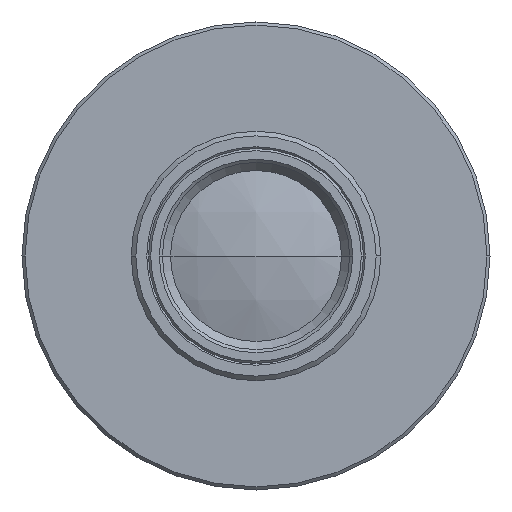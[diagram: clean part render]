
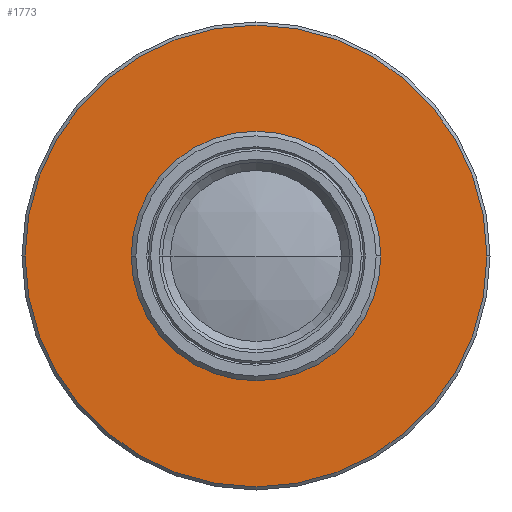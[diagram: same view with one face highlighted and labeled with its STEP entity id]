
A CAD part, left-side view. The second image highlights one B-rep face of the part: STEP entity #1773.
In plain terms, the highlighted planar face has unit normal (-1, 0, 0).
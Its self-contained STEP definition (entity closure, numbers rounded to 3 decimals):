
#19 = VERTEX_POINT ( 'NONE', #176 ) ;
#94 = FACE_BOUND ( 'NONE', #1748, .T. ) ;
#176 = CARTESIAN_POINT ( 'NONE',  ( 79.906, 8., 0. ) ) ;
#198 = CARTESIAN_POINT ( 'NONE',  ( 79.906, 0., 0. ) ) ;
#382 = EDGE_CURVE ( 'NONE', #465, #1109, #1469, .T. ) ;
#393 = DIRECTION ( 'NONE',  ( 0., 1., 0. ) ) ;
#459 = EDGE_CURVE ( 'NONE', #19, #875, #775, .T. ) ;
#465 = VERTEX_POINT ( 'NONE', #921 ) ;
#469 = ORIENTED_EDGE ( 'NONE', *, *, #382, .F. ) ;
#471 = DIRECTION ( 'NONE',  ( 1., 0., 0. ) ) ;
#482 = ORIENTED_EDGE ( 'NONE', *, *, #2182, .T. ) ;
#563 = ORIENTED_EDGE ( 'NONE', *, *, #1446, .F. ) ;
#579 = FACE_OUTER_BOUND ( 'NONE', #1843, .T. ) ;
#657 = PLANE ( 'NONE',  #820 ) ;
#661 = DIRECTION ( 'NONE',  ( 1., 0., 0. ) ) ;
#775 = CIRCLE ( 'NONE', #2377, 8. ) ;
#783 = DIRECTION ( 'NONE',  ( 1., 0., 0. ) ) ;
#790 = DIRECTION ( 'NONE',  ( 0., 1., 0. ) ) ;
#820 = AXIS2_PLACEMENT_3D ( 'NONE', #1756, #1031, #2317 ) ;
#875 = VERTEX_POINT ( 'NONE', #2293 ) ;
#921 = CARTESIAN_POINT ( 'NONE',  ( 79.906, 14.8, 0. ) ) ;
#1027 = ORIENTED_EDGE ( 'NONE', *, *, #459, .T. ) ;
#1031 = DIRECTION ( 'NONE',  ( -1., 0., 0. ) ) ;
#1109 = VERTEX_POINT ( 'NONE', #1801 ) ;
#1156 = CIRCLE ( 'NONE', #2146, 14.8 ) ;
#1438 = AXIS2_PLACEMENT_3D ( 'NONE', #1566, #471, #1744 ) ;
#1446 = EDGE_CURVE ( 'NONE', #1109, #465, #1156, .T. ) ;
#1459 = CIRCLE ( 'NONE', #1438, 8. ) ;
#1469 = CIRCLE ( 'NONE', #2016, 14.8 ) ;
#1488 = DIRECTION ( 'NONE',  ( 1., 0., 0. ) ) ;
#1566 = CARTESIAN_POINT ( 'NONE',  ( 79.906, 0., 0. ) ) ;
#1744 = DIRECTION ( 'NONE',  ( 0., 1., 0. ) ) ;
#1748 = EDGE_LOOP ( 'NONE', ( #1027, #482 ) ) ;
#1756 = CARTESIAN_POINT ( 'NONE',  ( 79.906, 8., 0. ) ) ;
#1767 = DIRECTION ( 'NONE',  ( 0., 1., 0. ) ) ;
#1773 = ADVANCED_FACE ( 'NONE', ( #94, #579 ), #657, .T. ) ;
#1801 = CARTESIAN_POINT ( 'NONE',  ( 79.906, -14.8, 0. ) ) ;
#1843 = EDGE_LOOP ( 'NONE', ( #469, #563 ) ) ;
#1954 = CARTESIAN_POINT ( 'NONE',  ( 79.906, 0., 0. ) ) ;
#2016 = AXIS2_PLACEMENT_3D ( 'NONE', #2070, #783, #790 ) ;
#2070 = CARTESIAN_POINT ( 'NONE',  ( 79.906, 0., 0. ) ) ;
#2146 = AXIS2_PLACEMENT_3D ( 'NONE', #198, #1488, #393 ) ;
#2182 = EDGE_CURVE ( 'NONE', #875, #19, #1459, .T. ) ;
#2293 = CARTESIAN_POINT ( 'NONE',  ( 79.906, -8., 0. ) ) ;
#2317 = DIRECTION ( 'NONE',  ( 0., -1., 0. ) ) ;
#2377 = AXIS2_PLACEMENT_3D ( 'NONE', #1954, #661, #1767 ) ;
